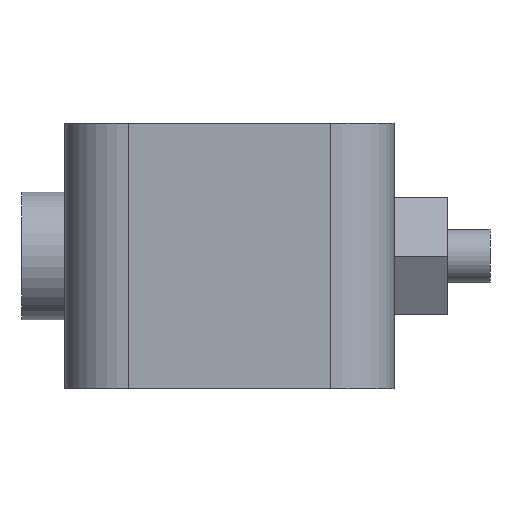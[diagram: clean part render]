
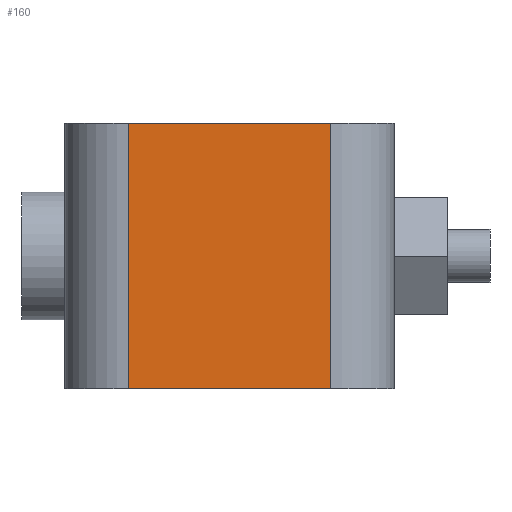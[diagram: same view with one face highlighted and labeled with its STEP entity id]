
A CAD part, left-side view. The second image highlights one B-rep face of the part: STEP entity #160.
In plain terms, the highlighted planar face has unit normal (-1, 0, 0).
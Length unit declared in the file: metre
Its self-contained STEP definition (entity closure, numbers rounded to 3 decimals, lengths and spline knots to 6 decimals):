
#160 = ADVANCED_FACE( '', ( #206 ), #207, .F. );
#206 = FACE_OUTER_BOUND( '', #299, .T. );
#207 = PLANE( '', #300 );
#299 = EDGE_LOOP( '', ( #422, #423, #424, #425 ) );
#300 = AXIS2_PLACEMENT_3D( '', #426, #427, #428 );
#422 = ORIENTED_EDGE( '', *, *, #692, .T. );
#423 = ORIENTED_EDGE( '', *, *, #693, .T. );
#424 = ORIENTED_EDGE( '', *, *, #682, .F. );
#425 = ORIENTED_EDGE( '', *, *, #694, .T. );
#426 = CARTESIAN_POINT( '', ( 0., 0.062, 0.025 ) );
#427 = DIRECTION( '', ( 1., 0., 0. ) );
#428 = DIRECTION( '', ( 0., 0., -1. ) );
#682 = EDGE_CURVE( '', #779, #781, #782, .T. );
#692 = EDGE_CURVE( '', #798, #799, #800, .T. );
#693 = EDGE_CURVE( '', #799, #781, #801, .F. );
#694 = EDGE_CURVE( '', #779, #798, #802, .T. );
#779 = VERTEX_POINT( '', #932 );
#781 = VERTEX_POINT( '', #934 );
#782 = LINE( '', #935, #936 );
#798 = VERTEX_POINT( '', #957 );
#799 = VERTEX_POINT( '', #958 );
#800 = LINE( '', #959, #960 );
#801 = LINE( '', #961, #962 );
#802 = LINE( '', #963, #964 );
#932 = CARTESIAN_POINT( '', ( 0., 0.05, 0.025 ) );
#934 = CARTESIAN_POINT( '', ( 0., 0.012, 0.025 ) );
#935 = CARTESIAN_POINT( '', ( 0., 0.062, 0.025 ) );
#936 = VECTOR( '', #1122, 1. );
#957 = CARTESIAN_POINT( '', ( 0., 0.05, -0.025 ) );
#958 = CARTESIAN_POINT( '', ( 0., 0.012, -0.025 ) );
#959 = CARTESIAN_POINT( '', ( 0., 0.062, -0.025 ) );
#960 = VECTOR( '', #1140, 1. );
#961 = CARTESIAN_POINT( '', ( 0., 0.012, 0.025 ) );
#962 = VECTOR( '', #1141, 1. );
#963 = CARTESIAN_POINT( '', ( 0., 0.05, 0.025 ) );
#964 = VECTOR( '', #1142, 1. );
#1122 = DIRECTION( '', ( 0., -1., 0. ) );
#1140 = DIRECTION( '', ( 0., -1., 0. ) );
#1141 = DIRECTION( '', ( 0., 0., -1. ) );
#1142 = DIRECTION( '', ( 0., 0., -1. ) );
